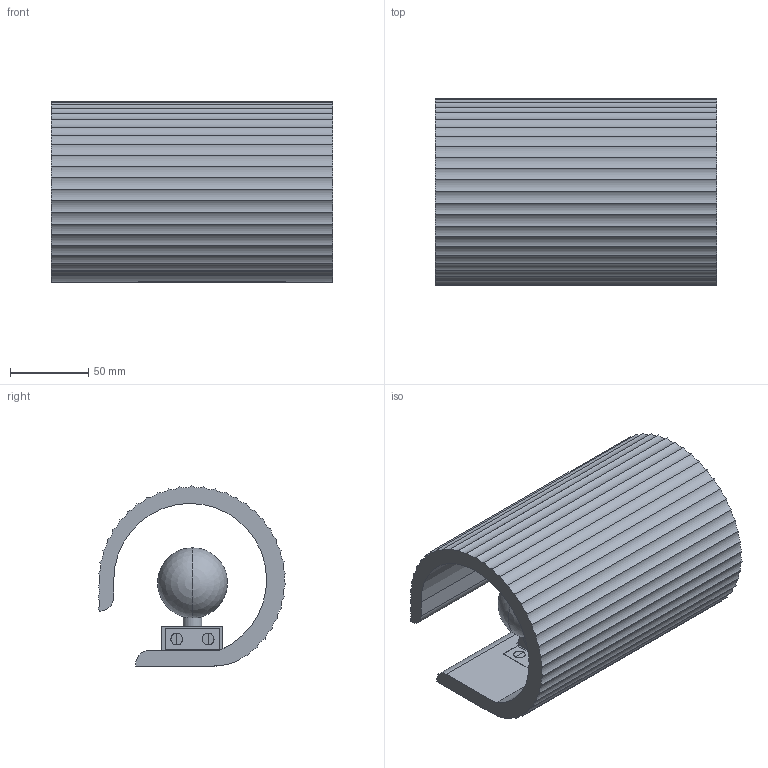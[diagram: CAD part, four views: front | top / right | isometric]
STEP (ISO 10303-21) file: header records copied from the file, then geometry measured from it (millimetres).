
FILE_DESCRIPTION(/* description */ (''),/* implementation_level */ '2;1');
FILE_NAME(/* name */ '63435.step',/* time_stamp */ '2024-10-17T09:41:38+02:00',/* author */ ('RenataManzini'),/* organization */ (''),/* preprocessor_version */ 'ST-DEVELOPER v20',/* originating_system */ 'AutoCAD Mechanical',/* authorisation */ '');
FILE_SCHEMA (('AUTOMOTIVE_DESIGN { 1 0 10303 214 3 1 1 }'));
Length unit declared in the file: millimetre
Products named in the file (2): Product; Trama_1L - novo-474662-_3D_
Assembly tree (1 placements, depth 2):
  Product
    Trama_1L - novo-474662-_3D_
Bounding box: 180 x 119.98 x 115.18 mm (x, y, z)
Volume: 627939.1 mm3; surface area: 165116.7 mm2
Topology: 11 solids, 11 shells, 198 faces, 471 edges, 295 vertices
Faces by surface type: cylinder 98, plane 84, cone 12, bspline 2, sphere 2
Entity records: 6287 total; most frequent: CARTESIAN_POINT 1476, DIRECTION 1064, ORIENTED_EDGE 932, EDGE_CURVE 466, AXIS2_PLACEMENT_3D 401, VERTEX_POINT 290, LINE 262, VECTOR 262
